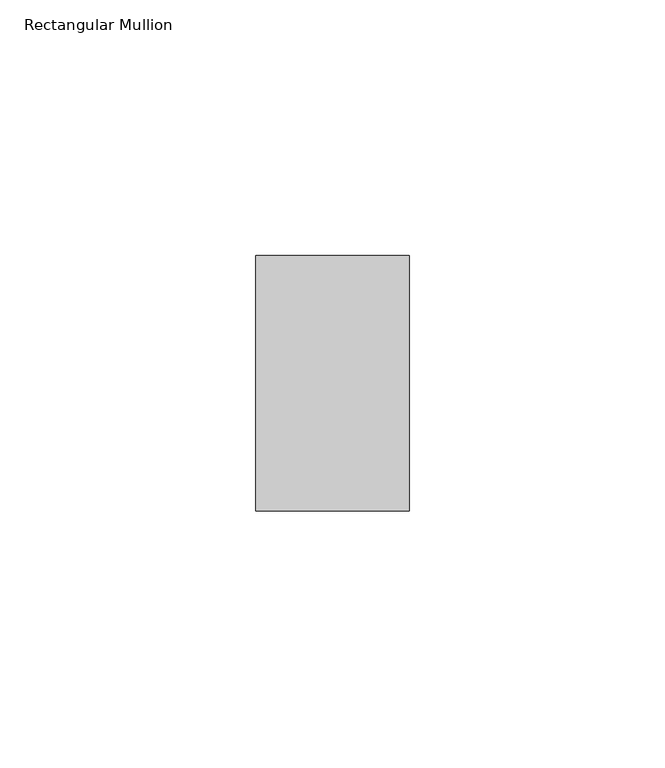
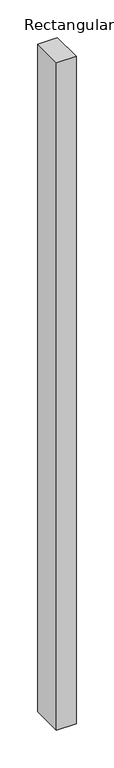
"""IFC4 building model written with IfcOpenShell, lengths in millimetres: member geometry, Rectangular Mullion : ARQ_TV_MULL_50x30mm."""

from ifc_helpers import new_model, si_unit, frame, origin, place, context, project, spatial, polyline, outline, extrude, source, transform, mapped, element, save


def rectangular_mullion_e9bbeab9(model_context):
    return source(origin(), model_context, "Body", "SweptSolid", [
        extrude(outline(polyline([(15.0, 25.0), (15.0, -25.0), (-15.0, -25.0), (-15.0, 25.0), (15.0, 25.0)])), frame((0.0, 0.0, -1082.4284367), z_axis=(0.0, 0.0, 1.0), x_axis=(1.0, 0.0, 0.0)), (0.0, 0.0, 1.0), 1082.4284367),
    ])


if __name__ == "__main__":
    model = new_model("IFC4")
    model_context = context("Model", 3, world=origin())
    ifc_project = project(units=[si_unit("LENGTHUNIT", "METRE", prefix="MILLI")], contexts=[model_context])
    site = spatial("IfcSite", under=ifc_project)
    building = spatial("IfcBuilding", under=site)
    placement = place(None, origin())
    rectangular_mullion_shape = rectangular_mullion_e9bbeab9(model_context)
    element("IfcMember", 1, ObjectType="Rectangular Mullion : ARQ_TV_MULL_50x30mm", at=placement, inside=building, context=model_context, shape_type="MappedRepresentation", body=[
        mapped(rectangular_mullion_shape, transform((0.0, 0.0, 0.0), x_axis=(1.0, 0.0, 0.0), y_axis=(0.0, 1.0, 0.0), z_axis=(0.0, 0.0, 1.0))),
    ])
    save(model, "model.ifc")
